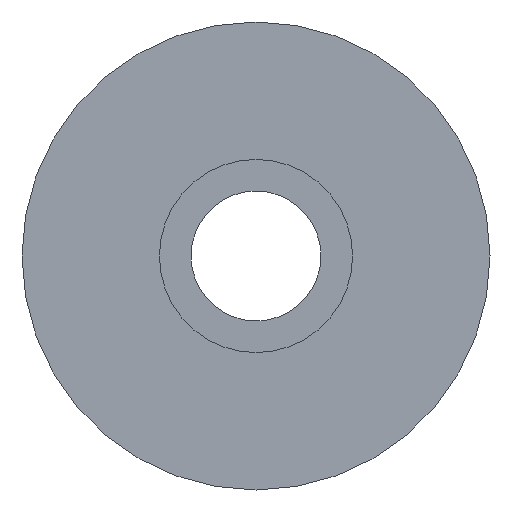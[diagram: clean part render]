
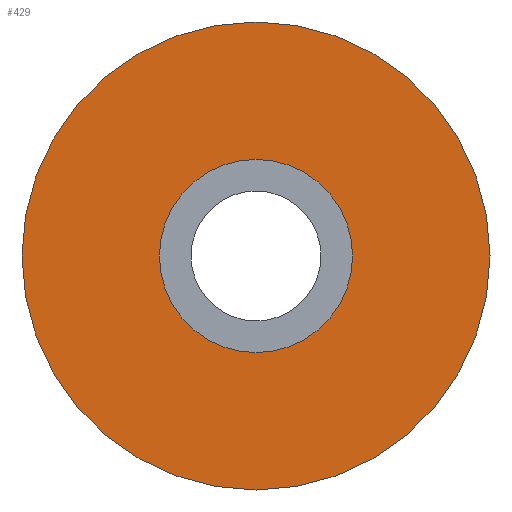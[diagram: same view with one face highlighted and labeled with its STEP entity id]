
A CAD part, front view. The second image highlights one B-rep face of the part: STEP entity #429.
In plain terms, the highlighted planar face has unit normal (0, -1, 0).
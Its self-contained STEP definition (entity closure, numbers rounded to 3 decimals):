
#45 = CARTESIAN_POINT ( 'NONE',  ( 0., -4.7, -3.2 ) ) ;
#53 = DIRECTION ( 'NONE',  ( 0., 0., 1. ) ) ;
#66 = CARTESIAN_POINT ( 'NONE',  ( 0., -4.7, 0. ) ) ;
#77 = ORIENTED_EDGE ( 'NONE', *, *, #731, .T. ) ;
#93 = DIRECTION ( 'NONE',  ( 0., 0., 1. ) ) ;
#138 = CIRCLE ( 'NONE', #524, 3.2 ) ;
#139 = DIRECTION ( 'NONE',  ( 0., 1., 0. ) ) ;
#159 = FACE_BOUND ( 'NONE', #383, .T. ) ;
#225 = ORIENTED_EDGE ( 'NONE', *, *, #782, .F. ) ;
#227 = FACE_OUTER_BOUND ( 'NONE', #726, .T. ) ;
#230 = EDGE_CURVE ( 'NONE', #436, #322, #569, .T. ) ;
#275 = CARTESIAN_POINT ( 'NONE',  ( 0., -4.7, 0. ) ) ;
#294 = VERTEX_POINT ( 'NONE', #778 ) ;
#310 = AXIS2_PLACEMENT_3D ( 'NONE', #66, #729, #53 ) ;
#322 = VERTEX_POINT ( 'NONE', #45 ) ;
#383 = EDGE_LOOP ( 'NONE', ( #776, #77 ) ) ;
#391 = ORIENTED_EDGE ( 'NONE', *, *, #711, .F. ) ;
#414 = DIRECTION ( 'NONE',  ( 0., 1., 0. ) ) ;
#429 = ADVANCED_FACE ( 'NONE', ( #227, #159 ), #628, .F. ) ;
#436 = VERTEX_POINT ( 'NONE', #546 ) ;
#464 = DIRECTION ( 'NONE',  ( 0., 0., 1. ) ) ;
#467 = CARTESIAN_POINT ( 'NONE',  ( 0., -4.7, 7.75 ) ) ;
#486 = AXIS2_PLACEMENT_3D ( 'NONE', #275, #139, #464 ) ;
#494 = CARTESIAN_POINT ( 'NONE',  ( 0., -4.7, 0. ) ) ;
#524 = AXIS2_PLACEMENT_3D ( 'NONE', #697, #742, #799 ) ;
#546 = CARTESIAN_POINT ( 'NONE',  ( 0., -4.7, 3.2 ) ) ;
#569 = CIRCLE ( 'NONE', #761, 3.2 ) ;
#591 = CIRCLE ( 'NONE', #310, 7.75 ) ;
#611 = AXIS2_PLACEMENT_3D ( 'NONE', #816, #414, #826 ) ;
#628 = PLANE ( 'NONE',  #611 ) ;
#632 = DIRECTION ( 'NONE',  ( 0., 1., 0. ) ) ;
#697 = CARTESIAN_POINT ( 'NONE',  ( 0., -4.7, 0. ) ) ;
#711 = EDGE_CURVE ( 'NONE', #294, #812, #756, .T. ) ;
#726 = EDGE_LOOP ( 'NONE', ( #391, #225 ) ) ;
#729 = DIRECTION ( 'NONE',  ( 0., 1., 0. ) ) ;
#731 = EDGE_CURVE ( 'NONE', #322, #436, #138, .T. ) ;
#742 = DIRECTION ( 'NONE',  ( 0., 1., 0. ) ) ;
#756 = CIRCLE ( 'NONE', #486, 7.75 ) ;
#761 = AXIS2_PLACEMENT_3D ( 'NONE', #494, #632, #93 ) ;
#776 = ORIENTED_EDGE ( 'NONE', *, *, #230, .T. ) ;
#778 = CARTESIAN_POINT ( 'NONE',  ( 0., -4.7, -7.75 ) ) ;
#782 = EDGE_CURVE ( 'NONE', #812, #294, #591, .T. ) ;
#799 = DIRECTION ( 'NONE',  ( 0., 0., 1. ) ) ;
#812 = VERTEX_POINT ( 'NONE', #467 ) ;
#816 = CARTESIAN_POINT ( 'NONE',  ( 3.2, -4.7, 0. ) ) ;
#826 = DIRECTION ( 'NONE',  ( 0., 0., 1. ) ) ;
